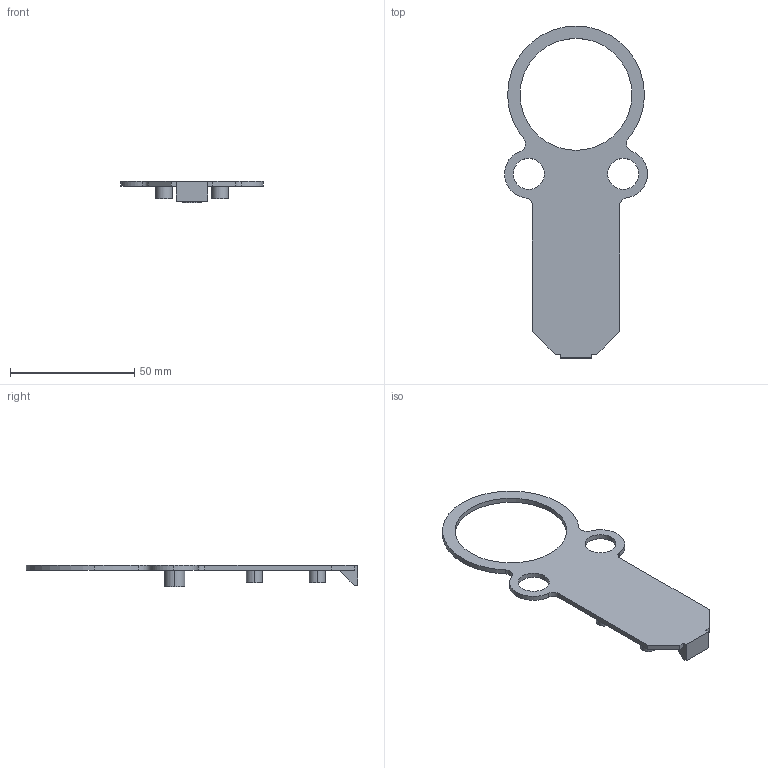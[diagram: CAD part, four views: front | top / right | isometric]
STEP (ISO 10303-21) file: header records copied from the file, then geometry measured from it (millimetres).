
FILE_DESCRIPTION (( 'STEP AP214' ), '1' );
FILE_NAME ('couvercle^AssemblageFluidial.STEP', '2025-10-01T10:39:16', ( '' ), ( '' ), 'SwSTEP 2.0', 'SolidWorks 2018', '' );
FILE_SCHEMA (( 'AUTOMOTIVE_DESIGN' ));
Length unit declared in the file: millimetre
Products named in the file (1): couvercle^AssemblageFluidial
Bounding box: 57.49 x 133.5 x 8.51 mm (x, y, z)
Volume: 8365.7 mm3; surface area: 9352.4 mm2
Topology: 1 solids, 1 shells, 60 faces, 144 edges, 96 vertices
Faces by surface type: cylinder 37, plane 23
Entity records: 1828 total; most frequent: DIRECTION 340, CARTESIAN_POINT 301, ORIENTED_EDGE 288, EDGE_CURVE 144, AXIS2_PLACEMENT_3D 135, VERTEX_POINT 96, EDGE_LOOP 76, CIRCLE 74
